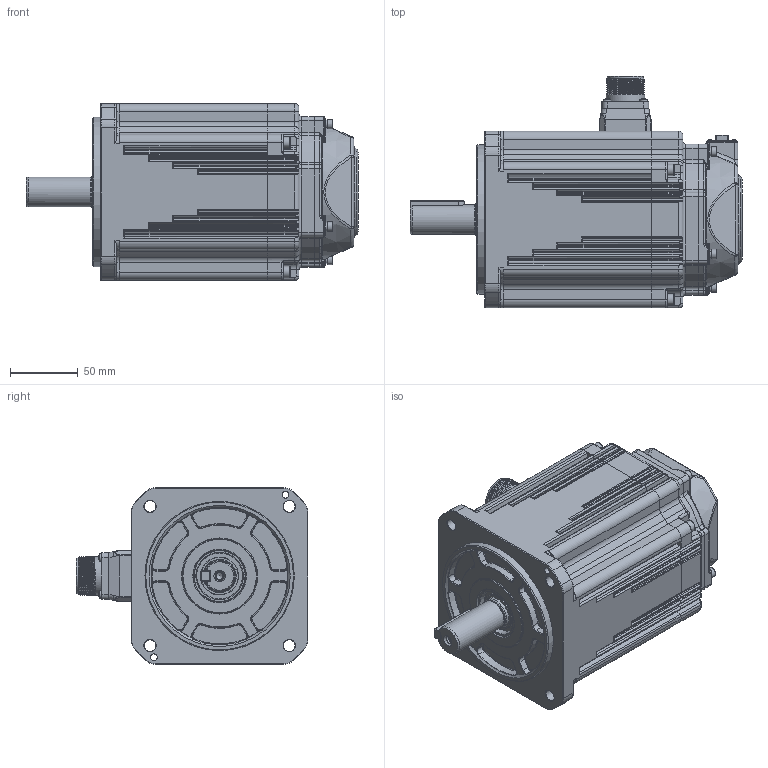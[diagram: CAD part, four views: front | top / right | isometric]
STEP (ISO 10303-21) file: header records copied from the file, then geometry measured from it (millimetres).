
FILE_DESCRIPTION (( 'STEP AP203' ), '1' );
FILE_NAME ('俋倛芞ACM1M-1318B.STEP', '2023-01-10T02:28:52', ( '' ), ( '' ), 'SwSTEP 2.0', 'SolidWorks 2021', '' );
FILE_SCHEMA (( 'CONFIG_CONTROL_DESIGN' ));
Length unit declared in the file: millimetre
Products named in the file (13): C型平键8×7×45螺纹拆卸型; 俋倛芞ACM1M-1318B; 130晤鎢ん裔1M; 130瑤脣假蚾釱; 綴傷裔蹟隊_M5℅20; ﾓﾍｷ筌ｻTC｣ｻ24｡ﾁ38｡ﾁ7｣ｻSOG; 1M晤鎢脣釱+蹟隊; 航插动力接插件 4芯 SZ RoHS_6芯; 萇埭脣釱蹟隊_M3℅10; 晤鎢裔蹟隊; 130价陬綴傷裔 詢39.3 ADC12 LM RoHS_傖こ; 130蛌粣09-XX 粣扥耳22 40Cr DC RoHS_LX晤鎢ん; 130前端盖0.85、1.3、1.8_成品-1.8
Assembly tree (21 placements, depth 2):
  俋倛芞ACM1M-1318B
    130前端盖0.85、1.3、1.8_成品-1.8
    130蛌粣09-XX 粣扥耳22 40Cr DC RoHS_LX晤鎢ん
    130价陬綴傷裔 詢39.3 ADC12 LM RoHS_傖こ
    130晤鎢ん裔1M
    綴傷裔蹟隊_M5℅20  x4
    晤鎢裔蹟隊  x4
    130瑤脣假蚾釱
    1M晤鎢脣釱+蹟隊
    航插动力接插件 4芯 SZ RoHS_6芯
    萇埭脣釱蹟隊_M3℅10  x4
    ﾓﾍｷ筌ｻTC｣ｻ24｡ﾁ38｡ﾁ7｣ｻSOG
    C型平键8×7×45螺纹拆卸型
Bounding box: 244.5 x 170.7 x 130 mm (x, y, z)
Volume: 1336568.3 mm3; surface area: 275448.2 mm2
Topology: 33 solids, 40 shells, 3644 faces, 9288 edges, 5723 vertices
Faces by surface type: plane 1515, cylinder 1007, torus 543, bspline 448, cone 120, sphere 11
Full cylindrical faces by diameter (mm): 1.5 x6, 1.6 x10, 1.68 x2, 2.2 x1, 2.4 x4, 2.48 x4, 2.5 x5, 2.598 x4, 2.6 x1, 2.8 x4, 3 x4, 3.2 x6, 3.3 x5, 3.5 x4, 3.9 x4, 4 x4, 4.2 x4, 4.5 x8, 5 x7, 5.5 x4, 5.6 x4, 6.4 x1, 7 x4, 8.5 x8, 9 x4, 21.7 x1, 22 x1, 23.7 x1, 24 x1, 26.5 x1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
Entity records: 136860 total; most frequent: CARTESIAN_POINT 56598, ORIENTED_EDGE 16740, DIRECTION 15801, EDGE_CURVE 8370, AXIS2_PLACEMENT_3D 5855, VERTEX_POINT 5333, LINE 4091, VECTOR 4091
